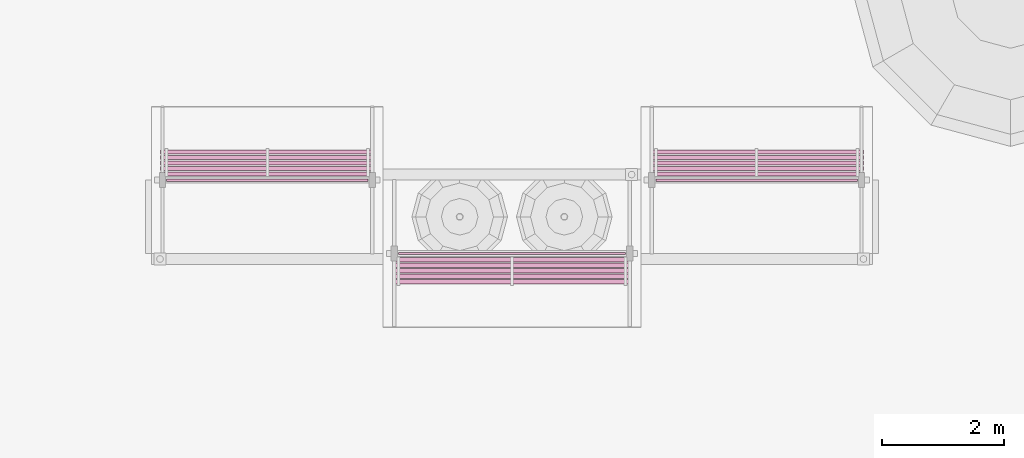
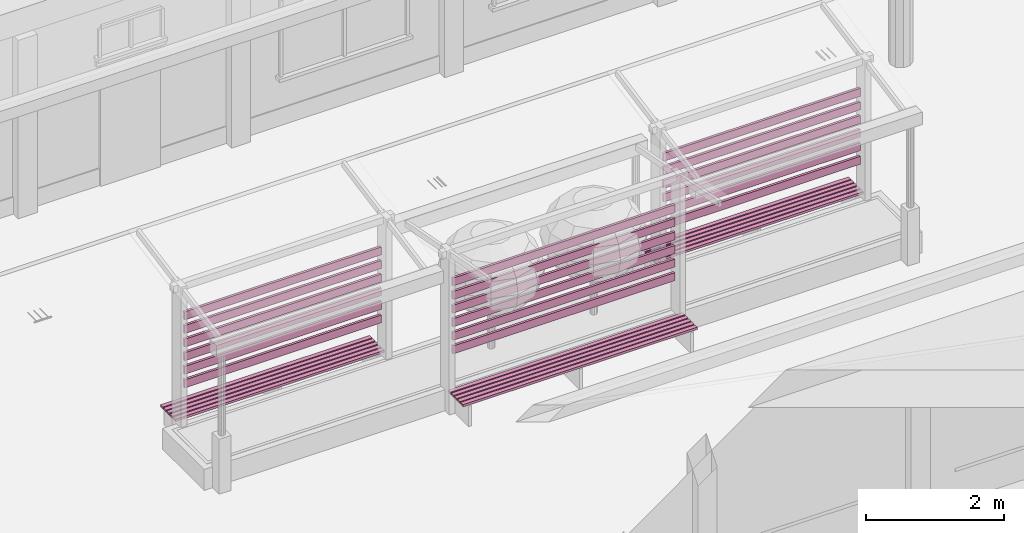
# One storey, part 140 of 166: 33 furnishings.
"""IFC2X3 building model written with IfcOpenShell, lengths in metres."""

from ifc_helpers import new_model, si_unit, origin, origin_with_axes, place, context, subcontext, project, spatial, faceted_brep, element, save


model = new_model("IFC2X3")

# Units and contexts
model_context = context("Model", 3, precision=1e-05, world=origin_with_axes())
body_context = subcontext(model_context, "Body", "Model", "MODEL_VIEW")
ifc_project = project(units=[si_unit("LENGTHUNIT", "METRE"), si_unit("AREAUNIT", "SQUARE_METRE"), si_unit("VOLUMEUNIT", "CUBIC_METRE"), si_unit("PLANEANGLEUNIT", "RADIAN")], contexts=[model_context])

# Site, building, storey
site_placement = place(None, origin_with_axes())
site = spatial("IfcSite", under=ifc_project, at=site_placement, Name="Predio Los Mangos - Morales, San Martín", CompositionType="ELEMENT")
building_placement = place(site_placement, origin())
building = spatial("IfcBuilding", under=site, at=building_placement, Name="Hogar de Refugio Temporal", CompositionType="ELEMENT")
storey_placement = place(building_placement, origin())
storey = spatial("IfcBuildingStorey", under=building, at=storey_placement, Name="NIVEL 1 (NPT +0.00)", CompositionType="ELEMENT", Elevation=0.0)

# Furnishings
furnishing_1_placement = place(storey_placement, origin())
element("IfcFurnishingElement", 1, at=furnishing_1_placement, inside=storey, Name="oc01_celosia", ObjectType="Mobiliario exterior / juegos", context=body_context, shape_type="Brep", body=[
    faceted_brep([(45.995, 110.87, 1.05), (45.995, 110.83, 1.05), (42.705, 110.83, 1.05), (42.705, 110.87, 1.05), (45.995, 110.87, 1.19), (42.705, 110.87, 1.19), (42.705, 110.83, 1.19), (45.995, 110.83, 1.19)], [[[0, 1, 2, 3]], [[4, 5, 6, 7]], [[0, 3, 5, 4]], [[3, 2, 6, 5]], [[2, 1, 7, 6]], [[1, 0, 4, 7]]]),
])
furnishing_2_placement = place(storey_placement, origin())
element("IfcFurnishingElement", 2, at=furnishing_2_placement, inside=storey, Name="oc01_celosia", ObjectType="Mobiliario exterior / juegos", context=body_context, shape_type="Brep", body=[
    faceted_brep([(45.995, 110.87, 1.29), (45.995, 110.83, 1.29), (42.705, 110.83, 1.29), (42.705, 110.87, 1.29), (45.995, 110.87, 1.43), (42.705, 110.87, 1.43), (42.705, 110.83, 1.43), (45.995, 110.83, 1.43)], [[[0, 1, 2, 3]], [[4, 5, 6, 7]], [[0, 3, 5, 4]], [[3, 2, 6, 5]], [[2, 1, 7, 6]], [[1, 0, 4, 7]]]),
])
furnishing_3_placement = place(storey_placement, origin())
element("IfcFurnishingElement", 3, at=furnishing_3_placement, inside=storey, Name="oc01_celosia", ObjectType="Mobiliario exterior / juegos", context=body_context, shape_type="Brep", body=[
    faceted_brep([(45.995, 110.87, 1.53), (45.995, 110.83, 1.53), (42.705, 110.83, 1.53), (42.705, 110.87, 1.53), (45.995, 110.87, 1.67), (42.705, 110.87, 1.67), (42.705, 110.83, 1.67), (45.995, 110.83, 1.67)], [[[0, 1, 2, 3]], [[4, 5, 6, 7]], [[0, 3, 5, 4]], [[3, 2, 6, 5]], [[2, 1, 7, 6]], [[1, 0, 4, 7]]]),
])
furnishing_4_placement = place(storey_placement, origin())
element("IfcFurnishingElement", 4, at=furnishing_4_placement, inside=storey, Name="oc01_celosia", ObjectType="Mobiliario exterior / juegos", context=body_context, shape_type="Brep", body=[
    faceted_brep([(45.995, 110.87, 1.77), (45.995, 110.83, 1.77), (42.705, 110.83, 1.77), (42.705, 110.87, 1.77), (45.995, 110.87, 1.91), (42.705, 110.87, 1.91), (42.705, 110.83, 1.91), (45.995, 110.83, 1.91)], [[[0, 1, 2, 3]], [[4, 5, 6, 7]], [[0, 3, 5, 4]], [[3, 2, 6, 5]], [[2, 1, 7, 6]], [[1, 0, 4, 7]]]),
])
furnishing_5_placement = place(storey_placement, origin())
element("IfcFurnishingElement", 5, at=furnishing_5_placement, inside=storey, Name="oc01_celosia", ObjectType="Mobiliario exterior / juegos", context=body_context, shape_type="Brep", body=[
    faceted_brep([(45.995, 110.87, 2.01), (45.995, 110.83, 2.01), (42.705, 110.83, 2.01), (42.705, 110.87, 2.01), (45.995, 110.87, 2.15), (42.705, 110.87, 2.15), (42.705, 110.83, 2.15), (45.995, 110.83, 2.15)], [[[0, 1, 2, 3]], [[4, 5, 6, 7]], [[0, 3, 5, 4]], [[3, 2, 6, 5]], [[2, 1, 7, 6]], [[1, 0, 4, 7]]]),
])
furnishing_6_placement = place(storey_placement, origin())
element("IfcFurnishingElement", 6, at=furnishing_6_placement, inside=storey, Name="oc01_celosia", ObjectType="Mobiliario exterior / juegos", context=body_context, shape_type="Brep", body=[
    faceted_brep([(45.995, 110.87, 2.25), (45.995, 110.83, 2.25), (42.705, 110.83, 2.25), (42.705, 110.87, 2.25), (45.995, 110.87, 2.39), (42.705, 110.87, 2.39), (42.705, 110.83, 2.39), (45.995, 110.83, 2.39)], [[[0, 1, 2, 3]], [[4, 5, 6, 7]], [[0, 3, 5, 4]], [[3, 2, 6, 5]], [[2, 1, 7, 6]], [[1, 0, 4, 7]]]),
])
furnishing_7_placement = place(storey_placement, origin())
element("IfcFurnishingElement", 7, at=furnishing_7_placement, inside=storey, Name="oc01_asiento", ObjectType="Mobiliario exterior / juegos", context=body_context, shape_type="Brep", body=[
    faceted_brep([(46.095, 110.985, 0.44), (46.095, 110.915, 0.44), (42.605, 110.915, 0.44), (42.605, 110.985, 0.44), (46.095, 110.985, 0.48), (42.605, 110.985, 0.48), (42.605, 110.915, 0.48), (46.095, 110.915, 0.48)], [[[0, 1, 2, 3]], [[4, 5, 6, 7]], [[0, 3, 5, 4]], [[3, 2, 6, 5]], [[2, 1, 7, 6]], [[1, 0, 4, 7]]]),
])
furnishing_8_placement = place(storey_placement, origin())
element("IfcFurnishingElement", 8, at=furnishing_8_placement, inside=storey, Name="oc01_asiento", ObjectType="Mobiliario exterior / juegos", context=body_context, shape_type="Brep", body=[
    faceted_brep([(46.095, 111.075, 0.44), (46.095, 111.005, 0.44), (42.605, 111.005, 0.44), (42.605, 111.075, 0.44), (46.095, 111.075, 0.48), (42.605, 111.075, 0.48), (42.605, 111.005, 0.48), (46.095, 111.005, 0.48)], [[[0, 1, 2, 3]], [[4, 5, 6, 7]], [[0, 3, 5, 4]], [[3, 2, 6, 5]], [[2, 1, 7, 6]], [[1, 0, 4, 7]]]),
])
furnishing_9_placement = place(storey_placement, origin())
element("IfcFurnishingElement", 9, at=furnishing_9_placement, inside=storey, Name="oc01_asiento", ObjectType="Mobiliario exterior / juegos", context=body_context, shape_type="Brep", body=[
    faceted_brep([(46.095, 111.165, 0.44), (46.095, 111.095, 0.44), (42.605, 111.095, 0.44), (42.605, 111.165, 0.44), (46.095, 111.165, 0.48), (42.605, 111.165, 0.48), (42.605, 111.095, 0.48), (46.095, 111.095, 0.48)], [[[0, 1, 2, 3]], [[4, 5, 6, 7]], [[0, 3, 5, 4]], [[3, 2, 6, 5]], [[2, 1, 7, 6]], [[1, 0, 4, 7]]]),
])
furnishing_10_placement = place(storey_placement, origin())
element("IfcFurnishingElement", 10, at=furnishing_10_placement, inside=storey, Name="oc01_asiento", ObjectType="Mobiliario exterior / juegos", context=body_context, shape_type="Brep", body=[
    faceted_brep([(46.095, 111.255, 0.44), (46.095, 111.185, 0.44), (42.605, 111.185, 0.44), (42.605, 111.255, 0.44), (46.095, 111.255, 0.48), (42.605, 111.255, 0.48), (42.605, 111.185, 0.48), (46.095, 111.185, 0.48)], [[[0, 1, 2, 3]], [[4, 5, 6, 7]], [[0, 3, 5, 4]], [[3, 2, 6, 5]], [[2, 1, 7, 6]], [[1, 0, 4, 7]]]),
])
furnishing_11_placement = place(storey_placement, origin())
element("IfcFurnishingElement", 11, at=furnishing_11_placement, inside=storey, Name="oc01_asiento", ObjectType="Mobiliario exterior / juegos", context=body_context, shape_type="Brep", body=[
    faceted_brep([(46.095, 111.345, 0.44), (46.095, 111.275, 0.44), (42.605, 111.275, 0.44), (42.605, 111.345, 0.44), (46.095, 111.345, 0.48), (42.605, 111.345, 0.48), (42.605, 111.275, 0.48), (46.095, 111.275, 0.48)], [[[0, 1, 2, 3]], [[4, 5, 6, 7]], [[0, 3, 5, 4]], [[3, 2, 6, 5]], [[2, 1, 7, 6]], [[1, 0, 4, 7]]]),
])
furnishing_12_placement = place(storey_placement, origin())
element("IfcFurnishingElement", 12, at=furnishing_12_placement, inside=storey, Name="oc01_celosia", ObjectType="Mobiliario exterior / juegos", context=body_context, shape_type="Brep", body=[
    faceted_brep([(42.205, 109.67, 1.05), (42.205, 109.63, 1.05), (38.495, 109.63, 1.05), (38.495, 109.67, 1.05), (42.205, 109.67, 1.19), (38.495, 109.67, 1.19), (38.495, 109.63, 1.19), (42.205, 109.63, 1.19)], [[[0, 1, 2, 3]], [[4, 5, 6, 7]], [[0, 3, 5, 4]], [[3, 2, 6, 5]], [[2, 1, 7, 6]], [[1, 0, 4, 7]]]),
])
furnishing_13_placement = place(storey_placement, origin())
element("IfcFurnishingElement", 13, at=furnishing_13_placement, inside=storey, Name="oc01_celosia", ObjectType="Mobiliario exterior / juegos", context=body_context, shape_type="Brep", body=[
    faceted_brep([(42.205, 109.67, 1.29), (42.205, 109.63, 1.29), (38.495, 109.63, 1.29), (38.495, 109.67, 1.29), (42.205, 109.67, 1.43), (38.495, 109.67, 1.43), (38.495, 109.63, 1.43), (42.205, 109.63, 1.43)], [[[0, 1, 2, 3]], [[4, 5, 6, 7]], [[0, 3, 5, 4]], [[3, 2, 6, 5]], [[2, 1, 7, 6]], [[1, 0, 4, 7]]]),
])
furnishing_14_placement = place(storey_placement, origin())
element("IfcFurnishingElement", 14, at=furnishing_14_placement, inside=storey, Name="oc01_celosia", ObjectType="Mobiliario exterior / juegos", context=body_context, shape_type="Brep", body=[
    faceted_brep([(42.205, 109.67, 1.53), (42.205, 109.63, 1.53), (38.495, 109.63, 1.53), (38.495, 109.67, 1.53), (42.205, 109.67, 1.67), (38.495, 109.67, 1.67), (38.495, 109.63, 1.67), (42.205, 109.63, 1.67)], [[[0, 1, 2, 3]], [[4, 5, 6, 7]], [[0, 3, 5, 4]], [[3, 2, 6, 5]], [[2, 1, 7, 6]], [[1, 0, 4, 7]]]),
])
furnishing_15_placement = place(storey_placement, origin())
element("IfcFurnishingElement", 15, at=furnishing_15_placement, inside=storey, Name="oc01_celosia", ObjectType="Mobiliario exterior / juegos", context=body_context, shape_type="Brep", body=[
    faceted_brep([(42.205, 109.67, 1.77), (42.205, 109.63, 1.77), (38.495, 109.63, 1.77), (38.495, 109.67, 1.77), (42.205, 109.67, 1.91), (38.495, 109.67, 1.91), (38.495, 109.63, 1.91), (42.205, 109.63, 1.91)], [[[0, 1, 2, 3]], [[4, 5, 6, 7]], [[0, 3, 5, 4]], [[3, 2, 6, 5]], [[2, 1, 7, 6]], [[1, 0, 4, 7]]]),
])
furnishing_16_placement = place(storey_placement, origin())
element("IfcFurnishingElement", 16, at=furnishing_16_placement, inside=storey, Name="oc01_celosia", ObjectType="Mobiliario exterior / juegos", context=body_context, shape_type="Brep", body=[
    faceted_brep([(42.205, 109.67, 2.01), (42.205, 109.63, 2.01), (38.495, 109.63, 2.01), (38.495, 109.67, 2.01), (42.205, 109.67, 2.15), (38.495, 109.67, 2.15), (38.495, 109.63, 2.15), (42.205, 109.63, 2.15)], [[[0, 1, 2, 3]], [[4, 5, 6, 7]], [[0, 3, 5, 4]], [[3, 2, 6, 5]], [[2, 1, 7, 6]], [[1, 0, 4, 7]]]),
])
furnishing_17_placement = place(storey_placement, origin())
element("IfcFurnishingElement", 17, at=furnishing_17_placement, inside=storey, Name="oc01_celosia", ObjectType="Mobiliario exterior / juegos", context=body_context, shape_type="Brep", body=[
    faceted_brep([(42.205, 109.67, 2.25), (42.205, 109.63, 2.25), (38.495, 109.63, 2.25), (38.495, 109.67, 2.25), (42.205, 109.67, 2.39), (38.495, 109.67, 2.39), (38.495, 109.63, 2.39), (42.205, 109.63, 2.39)], [[[0, 1, 2, 3]], [[4, 5, 6, 7]], [[0, 3, 5, 4]], [[3, 2, 6, 5]], [[2, 1, 7, 6]], [[1, 0, 4, 7]]]),
])
furnishing_18_placement = place(storey_placement, origin())
element("IfcFurnishingElement", 18, at=furnishing_18_placement, inside=storey, Name="oc01_asiento", ObjectType="Mobiliario exterior / juegos", context=body_context, shape_type="Brep", body=[
    faceted_brep([(42.305, 109.585, 0.44), (42.305, 109.515, 0.44), (38.395, 109.515, 0.44), (38.395, 109.585, 0.44), (42.305, 109.585, 0.48), (38.395, 109.585, 0.48), (38.395, 109.515, 0.48), (42.305, 109.515, 0.48)], [[[0, 1, 2, 3]], [[4, 5, 6, 7]], [[0, 3, 5, 4]], [[3, 2, 6, 5]], [[2, 1, 7, 6]], [[1, 0, 4, 7]]]),
])
furnishing_19_placement = place(storey_placement, origin())
element("IfcFurnishingElement", 19, at=furnishing_19_placement, inside=storey, Name="oc01_asiento", ObjectType="Mobiliario exterior / juegos", context=body_context, shape_type="Brep", body=[
    faceted_brep([(42.305, 109.495, 0.44), (42.305, 109.425, 0.44), (38.395, 109.425, 0.44), (38.395, 109.495, 0.44), (42.305, 109.495, 0.48), (38.395, 109.495, 0.48), (38.395, 109.425, 0.48), (42.305, 109.425, 0.48)], [[[0, 1, 2, 3]], [[4, 5, 6, 7]], [[0, 3, 5, 4]], [[3, 2, 6, 5]], [[2, 1, 7, 6]], [[1, 0, 4, 7]]]),
])
furnishing_20_placement = place(storey_placement, origin())
element("IfcFurnishingElement", 20, at=furnishing_20_placement, inside=storey, Name="oc01_asiento", ObjectType="Mobiliario exterior / juegos", context=body_context, shape_type="Brep", body=[
    faceted_brep([(42.305, 109.405, 0.44), (42.305, 109.335, 0.44), (38.395, 109.335, 0.44), (38.395, 109.405, 0.44), (42.305, 109.405, 0.48), (38.395, 109.405, 0.48), (38.395, 109.335, 0.48), (42.305, 109.335, 0.48)], [[[0, 1, 2, 3]], [[4, 5, 6, 7]], [[0, 3, 5, 4]], [[3, 2, 6, 5]], [[2, 1, 7, 6]], [[1, 0, 4, 7]]]),
])
furnishing_21_placement = place(storey_placement, origin())
element("IfcFurnishingElement", 21, at=furnishing_21_placement, inside=storey, Name="oc01_asiento", ObjectType="Mobiliario exterior / juegos", context=body_context, shape_type="Brep", body=[
    faceted_brep([(42.305, 109.315, 0.44), (42.305, 109.245, 0.44), (38.395, 109.245, 0.44), (38.395, 109.315, 0.44), (42.305, 109.315, 0.48), (38.395, 109.315, 0.48), (38.395, 109.245, 0.48), (42.305, 109.245, 0.48)], [[[0, 1, 2, 3]], [[4, 5, 6, 7]], [[0, 3, 5, 4]], [[3, 2, 6, 5]], [[2, 1, 7, 6]], [[1, 0, 4, 7]]]),
])
furnishing_22_placement = place(storey_placement, origin())
element("IfcFurnishingElement", 22, at=furnishing_22_placement, inside=storey, Name="oc01_asiento", ObjectType="Mobiliario exterior / juegos", context=body_context, shape_type="Brep", body=[
    faceted_brep([(42.305, 109.225, 0.44), (42.305, 109.155, 0.44), (38.395, 109.155, 0.44), (38.395, 109.225, 0.44), (42.305, 109.225, 0.48), (38.395, 109.225, 0.48), (38.395, 109.155, 0.48), (42.305, 109.155, 0.48)], [[[0, 1, 2, 3]], [[4, 5, 6, 7]], [[0, 3, 5, 4]], [[3, 2, 6, 5]], [[2, 1, 7, 6]], [[1, 0, 4, 7]]]),
])
furnishing_23_placement = place(storey_placement, origin())
element("IfcFurnishingElement", 23, at=furnishing_23_placement, inside=storey, Name="oc01_celosia", ObjectType="Mobiliario exterior / juegos", context=body_context, shape_type="Brep", body=[
    faceted_brep([(37.995, 110.87, 1.05), (37.995, 110.83, 1.05), (34.705, 110.83, 1.05), (34.705, 110.87, 1.05), (37.995, 110.87, 1.19), (34.705, 110.87, 1.19), (34.705, 110.83, 1.19), (37.995, 110.83, 1.19)], [[[0, 1, 2, 3]], [[4, 5, 6, 7]], [[0, 3, 5, 4]], [[3, 2, 6, 5]], [[2, 1, 7, 6]], [[1, 0, 4, 7]]]),
])
furnishing_24_placement = place(storey_placement, origin())
element("IfcFurnishingElement", 24, at=furnishing_24_placement, inside=storey, Name="oc01_celosia", ObjectType="Mobiliario exterior / juegos", context=body_context, shape_type="Brep", body=[
    faceted_brep([(37.995, 110.87, 1.29), (37.995, 110.83, 1.29), (34.705, 110.83, 1.29), (34.705, 110.87, 1.29), (37.995, 110.87, 1.43), (34.705, 110.87, 1.43), (34.705, 110.83, 1.43), (37.995, 110.83, 1.43)], [[[0, 1, 2, 3]], [[4, 5, 6, 7]], [[0, 3, 5, 4]], [[3, 2, 6, 5]], [[2, 1, 7, 6]], [[1, 0, 4, 7]]]),
])
furnishing_25_placement = place(storey_placement, origin())
element("IfcFurnishingElement", 25, at=furnishing_25_placement, inside=storey, Name="oc01_celosia", ObjectType="Mobiliario exterior / juegos", context=body_context, shape_type="Brep", body=[
    faceted_brep([(37.995, 110.87, 1.53), (37.995, 110.83, 1.53), (34.705, 110.83, 1.53), (34.705, 110.87, 1.53), (37.995, 110.87, 1.67), (34.705, 110.87, 1.67), (34.705, 110.83, 1.67), (37.995, 110.83, 1.67)], [[[0, 1, 2, 3]], [[4, 5, 6, 7]], [[0, 3, 5, 4]], [[3, 2, 6, 5]], [[2, 1, 7, 6]], [[1, 0, 4, 7]]]),
])
furnishing_26_placement = place(storey_placement, origin())
element("IfcFurnishingElement", 26, at=furnishing_26_placement, inside=storey, Name="oc01_celosia", ObjectType="Mobiliario exterior / juegos", context=body_context, shape_type="Brep", body=[
    faceted_brep([(37.995, 110.87, 1.77), (37.995, 110.83, 1.77), (34.705, 110.83, 1.77), (34.705, 110.87, 1.77), (37.995, 110.87, 1.91), (34.705, 110.87, 1.91), (34.705, 110.83, 1.91), (37.995, 110.83, 1.91)], [[[0, 1, 2, 3]], [[4, 5, 6, 7]], [[0, 3, 5, 4]], [[3, 2, 6, 5]], [[2, 1, 7, 6]], [[1, 0, 4, 7]]]),
])
furnishing_27_placement = place(storey_placement, origin())
element("IfcFurnishingElement", 27, at=furnishing_27_placement, inside=storey, Name="oc01_celosia", ObjectType="Mobiliario exterior / juegos", context=body_context, shape_type="Brep", body=[
    faceted_brep([(37.995, 110.87, 2.01), (37.995, 110.83, 2.01), (34.705, 110.83, 2.01), (34.705, 110.87, 2.01), (37.995, 110.87, 2.15), (34.705, 110.87, 2.15), (34.705, 110.83, 2.15), (37.995, 110.83, 2.15)], [[[0, 1, 2, 3]], [[4, 5, 6, 7]], [[0, 3, 5, 4]], [[3, 2, 6, 5]], [[2, 1, 7, 6]], [[1, 0, 4, 7]]]),
])
furnishing_28_placement = place(storey_placement, origin())
element("IfcFurnishingElement", 28, at=furnishing_28_placement, inside=storey, Name="oc01_celosia", ObjectType="Mobiliario exterior / juegos", context=body_context, shape_type="Brep", body=[
    faceted_brep([(37.995, 110.87, 2.25), (37.995, 110.83, 2.25), (34.705, 110.83, 2.25), (34.705, 110.87, 2.25), (37.995, 110.87, 2.39), (34.705, 110.87, 2.39), (34.705, 110.83, 2.39), (37.995, 110.83, 2.39)], [[[0, 1, 2, 3]], [[4, 5, 6, 7]], [[0, 3, 5, 4]], [[3, 2, 6, 5]], [[2, 1, 7, 6]], [[1, 0, 4, 7]]]),
])
furnishing_29_placement = place(storey_placement, origin())
element("IfcFurnishingElement", 29, at=furnishing_29_placement, inside=storey, Name="oc01_asiento", ObjectType="Mobiliario exterior / juegos", context=body_context, shape_type="Brep", body=[
    faceted_brep([(38.095, 110.985, 0.44), (38.095, 110.915, 0.44), (34.605, 110.915, 0.44), (34.605, 110.985, 0.44), (38.095, 110.985, 0.48), (34.605, 110.985, 0.48), (34.605, 110.915, 0.48), (38.095, 110.915, 0.48)], [[[0, 1, 2, 3]], [[4, 5, 6, 7]], [[0, 3, 5, 4]], [[3, 2, 6, 5]], [[2, 1, 7, 6]], [[1, 0, 4, 7]]]),
])
furnishing_30_placement = place(storey_placement, origin())
element("IfcFurnishingElement", 30, at=furnishing_30_placement, inside=storey, Name="oc01_asiento", ObjectType="Mobiliario exterior / juegos", context=body_context, shape_type="Brep", body=[
    faceted_brep([(38.095, 111.075, 0.44), (38.095, 111.005, 0.44), (34.605, 111.005, 0.44), (34.605, 111.075, 0.44), (38.095, 111.075, 0.48), (34.605, 111.075, 0.48), (34.605, 111.005, 0.48), (38.095, 111.005, 0.48)], [[[0, 1, 2, 3]], [[4, 5, 6, 7]], [[0, 3, 5, 4]], [[3, 2, 6, 5]], [[2, 1, 7, 6]], [[1, 0, 4, 7]]]),
])
furnishing_31_placement = place(storey_placement, origin())
element("IfcFurnishingElement", 31, at=furnishing_31_placement, inside=storey, Name="oc01_asiento", ObjectType="Mobiliario exterior / juegos", context=body_context, shape_type="Brep", body=[
    faceted_brep([(38.095, 111.165, 0.44), (38.095, 111.095, 0.44), (34.605, 111.095, 0.44), (34.605, 111.165, 0.44), (38.095, 111.165, 0.48), (34.605, 111.165, 0.48), (34.605, 111.095, 0.48), (38.095, 111.095, 0.48)], [[[0, 1, 2, 3]], [[4, 5, 6, 7]], [[0, 3, 5, 4]], [[3, 2, 6, 5]], [[2, 1, 7, 6]], [[1, 0, 4, 7]]]),
])
furnishing_32_placement = place(storey_placement, origin())
element("IfcFurnishingElement", 32, at=furnishing_32_placement, inside=storey, Name="oc01_asiento", ObjectType="Mobiliario exterior / juegos", context=body_context, shape_type="Brep", body=[
    faceted_brep([(38.095, 111.255, 0.44), (38.095, 111.185, 0.44), (34.605, 111.185, 0.44), (34.605, 111.255, 0.44), (38.095, 111.255, 0.48), (34.605, 111.255, 0.48), (34.605, 111.185, 0.48), (38.095, 111.185, 0.48)], [[[0, 1, 2, 3]], [[4, 5, 6, 7]], [[0, 3, 5, 4]], [[3, 2, 6, 5]], [[2, 1, 7, 6]], [[1, 0, 4, 7]]]),
])
furnishing_33_placement = place(storey_placement, origin())
element("IfcFurnishingElement", 33, at=furnishing_33_placement, inside=storey, Name="oc01_asiento", ObjectType="Mobiliario exterior / juegos", context=body_context, shape_type="Brep", body=[
    faceted_brep([(38.095, 111.345, 0.44), (38.095, 111.275, 0.44), (34.605, 111.275, 0.44), (34.605, 111.345, 0.44), (38.095, 111.345, 0.48), (34.605, 111.345, 0.48), (34.605, 111.275, 0.48), (38.095, 111.275, 0.48)], [[[0, 1, 2, 3]], [[4, 5, 6, 7]], [[0, 3, 5, 4]], [[3, 2, 6, 5]], [[2, 1, 7, 6]], [[1, 0, 4, 7]]]),
])

save(model, "model.ifc")
